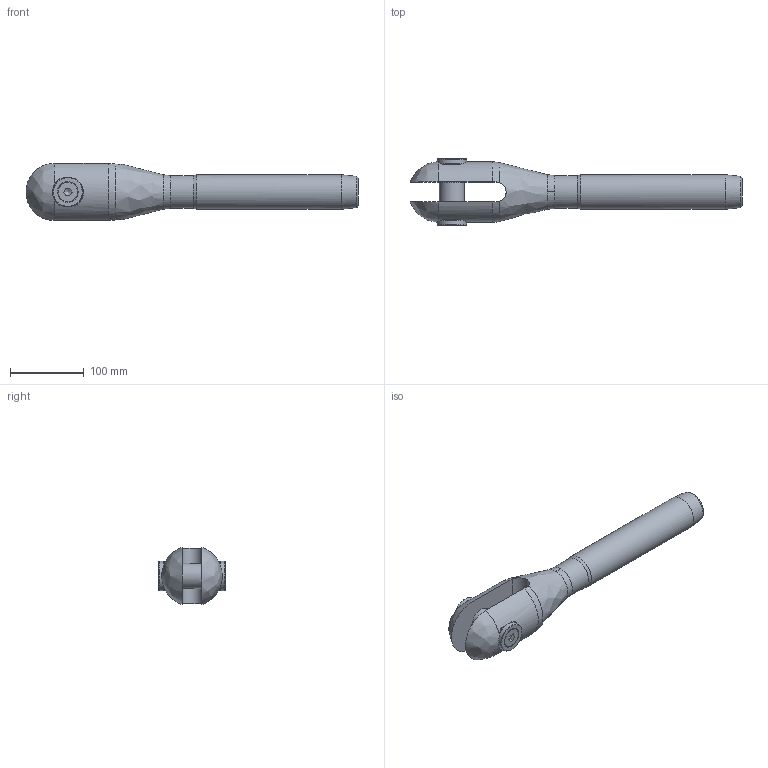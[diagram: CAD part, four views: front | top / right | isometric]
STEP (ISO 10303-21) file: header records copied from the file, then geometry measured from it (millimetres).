
FILE_DESCRIPTION(/* description */ (''),/* implementation_level */ '2;1');
FILE_NAME(/* name */ 'MAC 24_1,4418',/* time_stamp */ '2023-05-23T16:54:54+02:00',/* author */ (''),/* organization */ (''),/* preprocessor_version */ 'ST-DEVELOPER v16.5',/* originating_system */ 'Rhino 7.22',/* authorisation */ '');
FILE_SCHEMA (('CONFIG_CONTROL_DESIGN'));
Length unit declared in the file: millimetre
Products named in the file (1): Document
Bounding box: 449.68 x 89.67 x 77.43 mm (x, y, z)
Volume: 999868.2 mm3; surface area: 120431.7 mm2
Topology: 6 solids, 6 shells, 75 faces, 210 edges, 145 vertices
Faces by surface type: plane 29, bspline 24, cylinder 22
Full cylindrical faces by diameter (mm): 11.835 x2, 14 x2, 14.5 x2, 26.52 x2, 34 x1, 36 x2, 40 x2, 44.5 x1, 46.8 x1
Entity records: 3138 total; most frequent: CARTESIAN_POINT 1791, ORIENTED_EDGE 412, EDGE_CURVE 206, VERTEX_POINT 145, EDGE_LOOP 85, B_SPLINE_CURVE_WITH_KNOTS 84, ADVANCED_FACE 75, FACE_OUTER_BOUND 75
